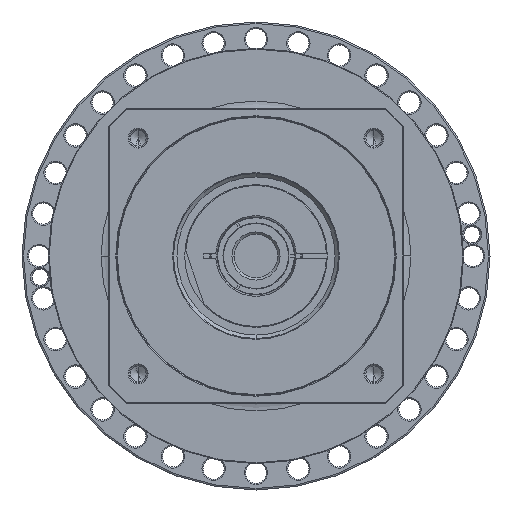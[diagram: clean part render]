
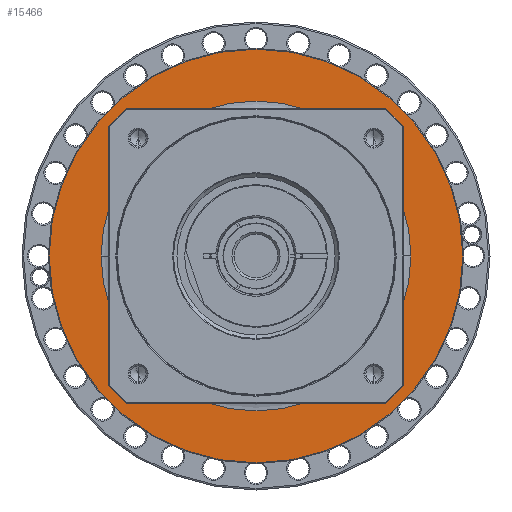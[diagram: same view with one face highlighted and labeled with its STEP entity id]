
A CAD part, left-side view. The second image highlights one B-rep face of the part: STEP entity #15466.
In plain terms, the highlighted planar face has unit normal (-1, 0, 0) as drawn and (1, 0, 0) by its records, which use the part's own axes.
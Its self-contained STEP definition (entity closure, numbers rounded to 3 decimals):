
#14945=CARTESIAN_POINT('',(-14.,0.,0.));
#14946=DIRECTION('',(-1.,0.,0.));
#14947=DIRECTION('',(0.,-1.,0.));
#14948=AXIS2_PLACEMENT_3D('',#14945,#14946,#14947);
#14950=CARTESIAN_POINT('',(-14.,0.,0.));
#14951=DIRECTION('',(-1.,0.,0.));
#14952=DIRECTION('',(0.,1.,0.));
#14953=AXIS2_PLACEMENT_3D('',#14950,#14951,#14952);
#14955=CARTESIAN_POINT('',(-14.,0.,0.));
#14956=DIRECTION('',(-1.,0.,0.));
#14957=DIRECTION('',(0.,-1.,0.));
#14958=AXIS2_PLACEMENT_3D('',#14955,#14956,#14957);
#14960=CARTESIAN_POINT('',(-14.,0.,0.));
#14961=DIRECTION('',(-1.,0.,0.));
#14962=DIRECTION('',(0.,1.,0.));
#14963=AXIS2_PLACEMENT_3D('',#14960,#14961,#14962);
#15029=CARTESIAN_POINT('',(-14.,-133.5,0.));
#15030=CARTESIAN_POINT('',(-14.,133.5,0.));
#15031=VERTEX_POINT('',#15029);
#15032=VERTEX_POINT('',#15030);
#15053=CARTESIAN_POINT('',(-14.,-100.,0.));
#15054=CARTESIAN_POINT('',(-14.,100.,0.));
#15055=VERTEX_POINT('',#15053);
#15056=VERTEX_POINT('',#15054);
#15451=CARTESIAN_POINT('',(-14.,0.,0.));
#15452=DIRECTION('',(1.,0.,0.));
#15453=DIRECTION('',(0.,-1.,0.));
#15454=AXIS2_PLACEMENT_3D('',#15451,#15452,#15453);
#15455=PLANE('',#15454);
#15456=ORIENTED_EDGE('',*,*,#15392,.T.);
#15457=ORIENTED_EDGE('',*,*,#15407,.T.);
#15458=EDGE_LOOP('',(#15456,#15457));
#15459=FACE_OUTER_BOUND('',#15458,.F.);
#15461=ORIENTED_EDGE('',*,*,#15460,.F.);
#15463=ORIENTED_EDGE('',*,*,#15462,.F.);
#15464=EDGE_LOOP('',(#15461,#15463));
#15465=FACE_BOUND('',#15464,.F.);
#15466=ADVANCED_FACE('',(#15459,#15465),#15455,.T.);
#14949=CIRCLE('',#14948,100.);
#14954=CIRCLE('',#14953,100.);
#14959=CIRCLE('',#14958,133.5);
#14964=CIRCLE('',#14963,133.5);
#15392=EDGE_CURVE('',#15031,#15032,#14959,.T.);
#15407=EDGE_CURVE('',#15032,#15031,#14964,.T.);
#15460=EDGE_CURVE('',#15055,#15056,#14949,.T.);
#15462=EDGE_CURVE('',#15056,#15055,#14954,.T.);
